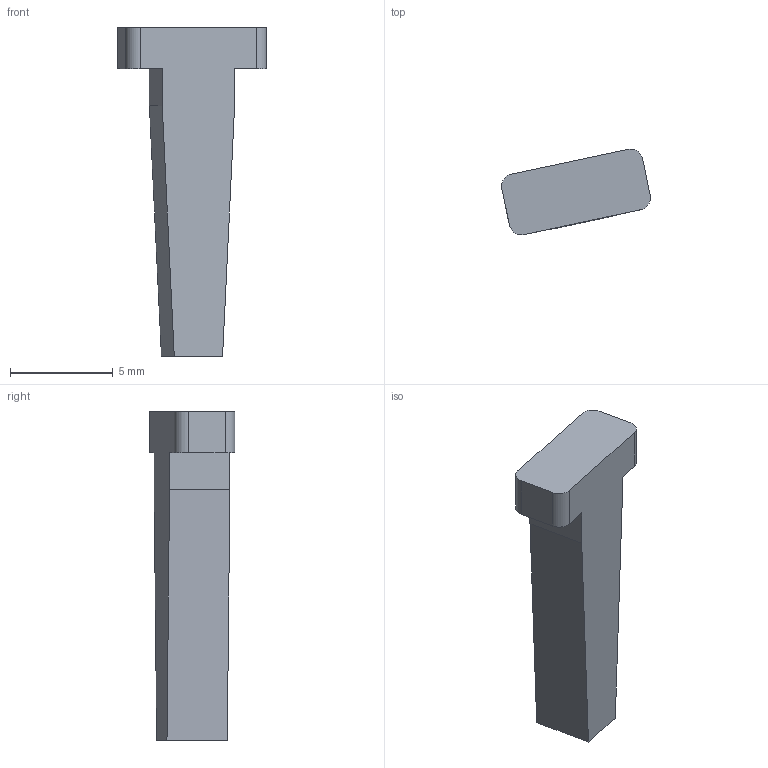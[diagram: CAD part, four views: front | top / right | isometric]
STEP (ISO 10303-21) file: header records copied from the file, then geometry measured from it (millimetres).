
FILE_DESCRIPTION(('Open CASCADE Model'),'2;1');
FILE_NAME('Open CASCADE Shape Model','2026-10-23T20:21:35',('Author'),( 'Open CASCADE'),'Open CASCADE STEP processor 7.8','Open CASCADE 7.8' ,'Unknown');
FILE_SCHEMA(('AUTOMOTIVE_DESIGN { 1 0 10303 214 1 1 1 1 }'));
Length unit declared in the file: millimetre
Products named in the file (1): Open CASCADE STEP translator 7.8 30
Bounding box: 7.25 x 4.17 x 16 mm (x, y, z)
Volume: 170.6 mm3; surface area: 246 mm2
Topology: 1 solids, 1 shells, 16 faces, 42 edges, 28 vertices
Faces by surface type: plane 12, cylinder 4
Entity records: 1050 total; most frequent: CARTESIAN_POINT 207, DIRECTION 152, LINE 98, VECTOR 98, ORIENTED_EDGE 84, PCURVE 84, DEFINITIONAL_REPRESENTATION 84, EDGE_CURVE 42
